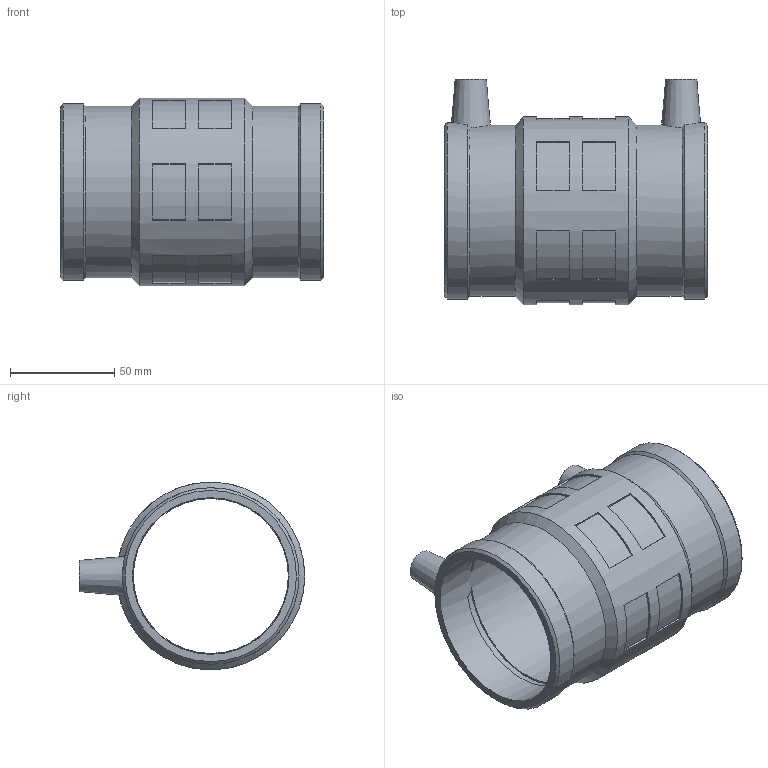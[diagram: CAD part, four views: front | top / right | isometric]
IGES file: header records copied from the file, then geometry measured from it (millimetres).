
Global section: file name: 460104075.ipt; native system: Autodesk Inventor 2015; preprocessor: unknown; author: KIM; date: 20171106.093412; units: millimetre
Bounding box: 126 x 108 x 90 mm (x, y, z)
Volume: 178260.3 mm3; surface area: 71546.1 mm2
Topology: 1 solids, 1 shells, 98 faces, 240 edges, 160 vertices
Faces by surface type: plane 60, cylinder 19, cone 12, revolution 7
Full cylindrical faces by diameter (mm): 4 x2, 82.062 x2, 84.6 x2, 90 x1
